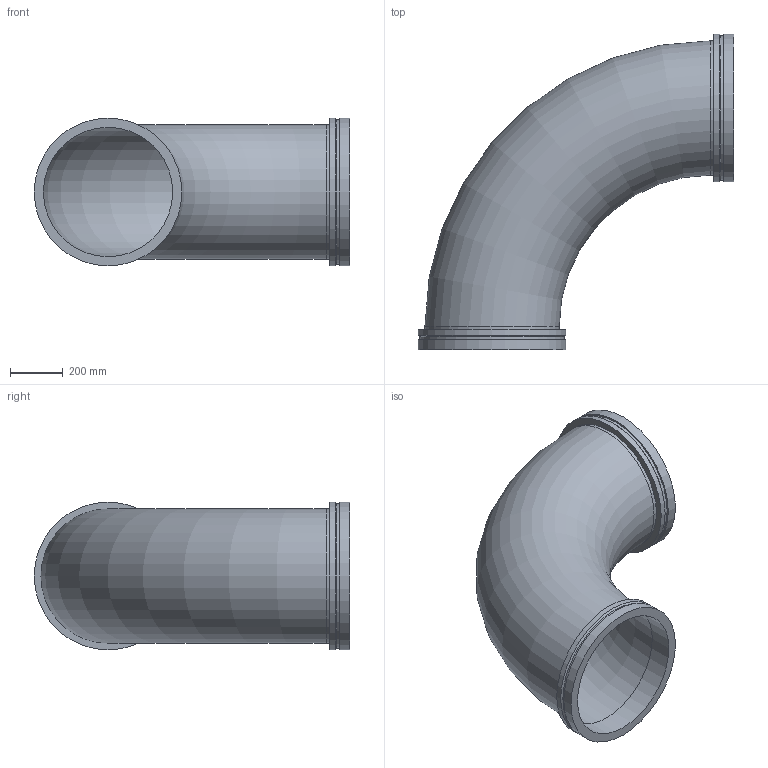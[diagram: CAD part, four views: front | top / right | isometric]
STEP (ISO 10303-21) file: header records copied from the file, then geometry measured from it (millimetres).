
FILE_DESCRIPTION(/* description */ ('VIC 90 DEG ELBOW No W100 VR','CAx-IF Rec.Pracs.---Representation and Presentation of Product Manufacturing Information (PMI)---4.0---2014-10-13'),/* implementation_level */ '2;1');
FILE_NAME(/* name */ 'C:\Users\kkamble\AppData\Roaming\Autodesk\ApplicationPlugins\Back Up\Victaulic_Vic-Ring_Elbow 90 Deg LR_No W100 VR (AGR)\Victaulic_Vic-Ring_Elbow 90 Deg LR_No W100 VR (AGR)_20 (500).stp',/* time_stamp */ '2020-09-10T11:43:53+05:00',/* author */ ('cps_temp'),/* organization */ ('Victaulic'),/* preprocessor_version */ 'ST-DEVELOPER v17.2',/* originating_system */ 'Autodesk Inventor 2019',/* authorisation */ '');
FILE_SCHEMA (('AP242_MANAGED_MODEL_BASED_3D_ENGINEERING_MIM_LF { 1 0 10303 442 1 1 4 }'));
Length unit declared in the file: inch
Products named in the file (1): W100 VR-20.0
Bounding box: 1193.8 x 1193.8 x 558.8 mm (x, y, z)
Volume: 28166807.4 mm3; surface area: 4873719.3 mm2
Topology: 1 solids, 1 shells, 20 faces, 51 edges, 37 vertices
Faces by surface type: cylinder 10, plane 6, cone 2, torus 2
Full cylindrical faces by diameter (mm): 488.95 x2, 508 x2, 546.1 x2, 558.8 x4
Entity records: 802 total; most frequent: DIRECTION 158, CARTESIAN_POINT 126, ORIENTED_EDGE 102, AXIS2_PLACEMENT_3D 73, EDGE_CURVE 51, CIRCLE 39, VERTEX_POINT 37, EDGE_LOOP 26
